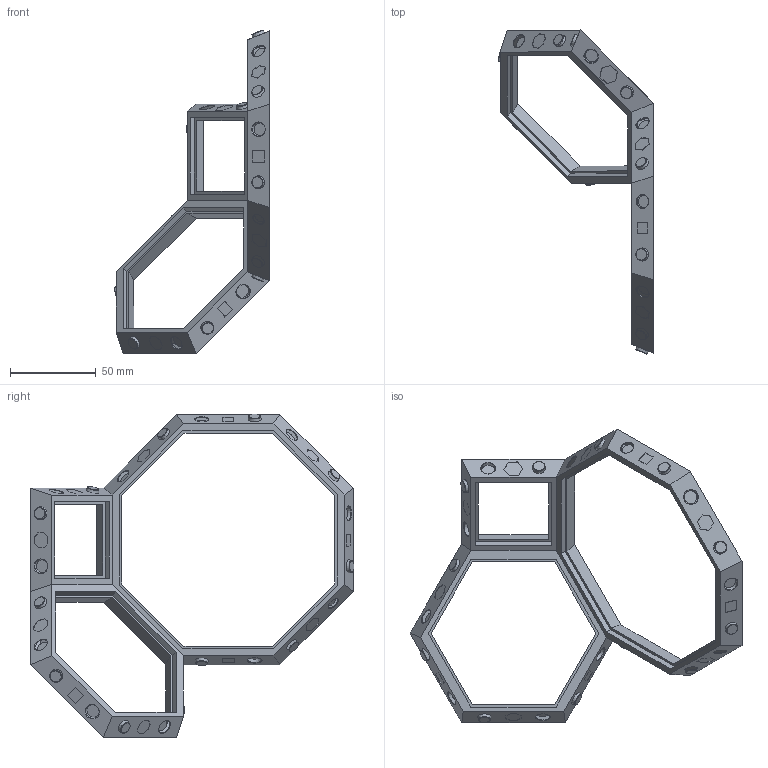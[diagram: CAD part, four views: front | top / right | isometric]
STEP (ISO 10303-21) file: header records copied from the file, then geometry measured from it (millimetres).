
FILE_DESCRIPTION(/* description */ (''),/* implementation_level */ '2;1');
FILE_NAME(/* name */ 'Truncated Cuboctahedron Completed.step',/* time_stamp */ '2026-06-04T10:57:09-04:00',/* author */ (''),/* organization */ (''),/* preprocessor_version */ 'ST-DEVELOPER v20.1',/* originating_system */ 'Autodesk Translation Framework v15.8.0.0',/* authorisation */ '');
FILE_SCHEMA (('AUTOMOTIVE_DESIGN { 1 0 10303 214 3 1 1 }'));
Length unit declared in the file: inch
Products named in the file (1): Truncated Cuboctahedron 3d (v3~recovered)
Bounding box: 90.19 x 188.64 x 188.64 mm (x, y, z)
Volume: 75469.8 mm3; surface area: 39596.9 mm2
Topology: 3 solids, 3 shells, 297 faces, 662 edges, 428 vertices
Faces by surface type: plane 225, cone 72
Entity records: 8149 total; most frequent: CARTESIAN_POINT 1388, DIRECTION 1366, ORIENTED_EDGE 1324, EDGE_CURVE 662, LINE 554, VECTOR 554, VERTEX_POINT 428, AXIS2_PLACEMENT_3D 406
